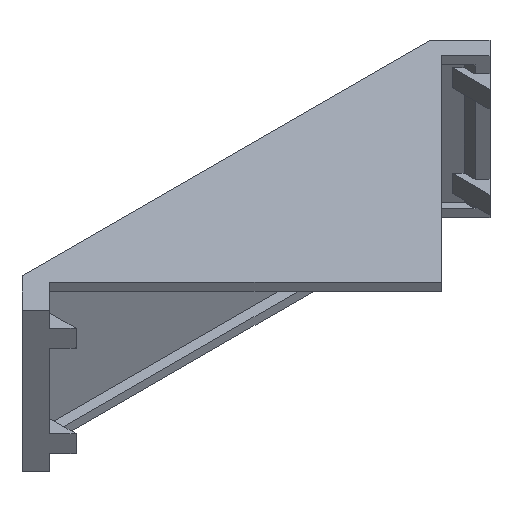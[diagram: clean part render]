
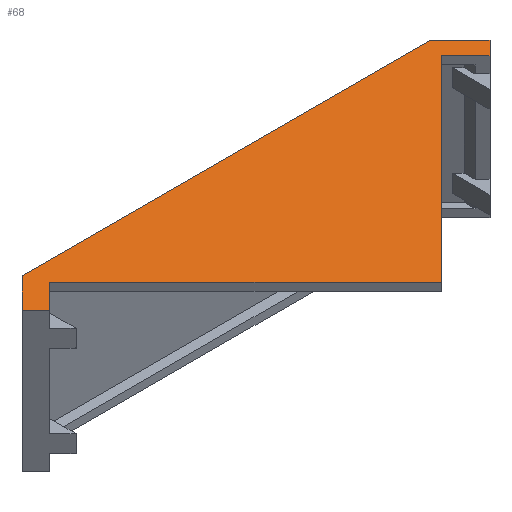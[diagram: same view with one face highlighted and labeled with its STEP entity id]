
A CAD part, isometric view. The second image highlights one B-rep face of the part: STEP entity #68.
In plain terms, the highlighted planar face has unit normal (0, 0, 1).
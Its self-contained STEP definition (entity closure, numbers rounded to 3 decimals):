
#4 = CARTESIAN_POINT ( 'NONE',  ( 50.274, 0.416, 36. ) ) ;
#7 = LINE ( 'NONE', #508, #92 ) ;
#34 = LINE ( 'NONE', #884, #46 ) ;
#42 = EDGE_CURVE ( 'NONE', #105, #1313, #942, .T. ) ;
#46 = VECTOR ( 'NONE', #991, 1000. ) ;
#60 = VECTOR ( 'NONE', #193, 1000. ) ;
#62 = LINE ( 'NONE', #889, #60 ) ;
#68 = ADVANCED_FACE ( 'NONE', ( #964 ), #362, .T. ) ;
#69 = DIRECTION ( 'NONE',  ( 0.707, 0.707, 0. ) ) ;
#70 = CARTESIAN_POINT ( 'NONE',  ( -66.605, -3.119, 36. ) ) ;
#92 = VECTOR ( 'NONE', #777, 1000. ) ;
#101 = CARTESIAN_POINT ( 'NONE',  ( -62.433, 8.124, 36. ) ) ;
#105 = VERTEX_POINT ( 'NONE', #4 ) ;
#109 = VECTOR ( 'NONE', #1060, 1000. ) ;
#120 = ORIENTED_EDGE ( 'NONE', *, *, #1133, .T. ) ;
#122 = EDGE_CURVE ( 'NONE', #411, #213, #1220, .T. ) ;
#130 = CARTESIAN_POINT ( 'NONE',  ( -60.362, 3.124, 36. ) ) ;
#146 = LINE ( 'NONE', #1275, #109 ) ;
#155 = VERTEX_POINT ( 'NONE', #101 ) ;
#167 = DIRECTION ( 'NONE',  ( 1., 0., 0. ) ) ;
#193 = DIRECTION ( 'NONE',  ( 0.707, 0.707, 0. ) ) ;
#197 = VERTEX_POINT ( 'NONE', #1085 ) ;
#213 = VERTEX_POINT ( 'NONE', #1102 ) ;
#219 = CARTESIAN_POINT ( 'NONE',  ( -62.433, 8.124, 36. ) ) ;
#295 = DIRECTION ( 'NONE',  ( 0.707, -0.707, 0. ) ) ;
#306 = EDGE_CURVE ( 'NONE', #450, #411, #979, .T. ) ;
#309 = EDGE_CURVE ( 'NONE', #105, #789, #983, .T. ) ;
#350 = CARTESIAN_POINT ( 'NONE',  ( 46.739, -3.119, 36. ) ) ;
#358 = CARTESIAN_POINT ( 'NONE',  ( 0., 0., 36. ) ) ;
#362 = PLANE ( 'NONE',  #785 ) ;
#365 = DIRECTION ( 'NONE',  ( -0.707, 0.707, 0. ) ) ;
#411 = VERTEX_POINT ( 'NONE', #1044 ) ;
#413 = ORIENTED_EDGE ( 'NONE', *, *, #122, .T. ) ;
#450 = VERTEX_POINT ( 'NONE', #130 ) ;
#463 = EDGE_LOOP ( 'NONE', ( #1179, #519, #120, #1279, #551, #464, #1129, #413, #1043 ) ) ;
#464 = ORIENTED_EDGE ( 'NONE', *, *, #676, .T. ) ;
#476 = CARTESIAN_POINT ( 'NONE',  ( 42.567, 8.124, 36. ) ) ;
#508 = CARTESIAN_POINT ( 'NONE',  ( -62.433, 8.124, 36. ) ) ;
#517 = CARTESIAN_POINT ( 'NONE',  ( -9.933, -47.305, 36. ) ) ;
#519 = ORIENTED_EDGE ( 'NONE', *, *, #42, .T. ) ;
#551 = ORIENTED_EDGE ( 'NONE', *, *, #648, .T. ) ;
#555 = VECTOR ( 'NONE', #636, 1000. ) ;
#568 = LINE ( 'NONE', #219, #555 ) ;
#622 = CARTESIAN_POINT ( 'NONE',  ( 24.929, -24.929, 36. ) ) ;
#636 = DIRECTION ( 'NONE',  ( -1., 0., 0. ) ) ;
#648 = EDGE_CURVE ( 'NONE', #197, #757, #34, .T. ) ;
#676 = EDGE_CURVE ( 'NONE', #757, #450, #62, .T. ) ;
#677 = EDGE_CURVE ( 'NONE', #155, #197, #7, .T. ) ;
#697 = EDGE_CURVE ( 'NONE', #213, #789, #146, .T. ) ;
#757 = VERTEX_POINT ( 'NONE', #70 ) ;
#777 = DIRECTION ( 'NONE',  ( -0.707, -0.707, 0. ) ) ;
#785 = AXIS2_PLACEMENT_3D ( 'NONE', #358, #1068, #167 ) ;
#789 = VERTEX_POINT ( 'NONE', #350 ) ;
#884 = CARTESIAN_POINT ( 'NONE',  ( -34.862, -34.862, 36. ) ) ;
#886 = CARTESIAN_POINT ( 'NONE',  ( 42.567, 8.124, 36. ) ) ;
#889 = CARTESIAN_POINT ( 'NONE',  ( -66.676, -3.19, 36. ) ) ;
#942 = LINE ( 'NONE', #476, #978 ) ;
#964 = FACE_OUTER_BOUND ( 'NONE', #463, .T. ) ;
#978 = VECTOR ( 'NONE', #365, 1000. ) ;
#979 = LINE ( 'NONE', #517, #997 ) ;
#983 = LINE ( 'NONE', #622, #1011 ) ;
#991 = DIRECTION ( 'NONE',  ( 0.707, -0.707, 0. ) ) ;
#997 = VECTOR ( 'NONE', #295, 1000. ) ;
#1009 = CARTESIAN_POINT ( 'NONE',  ( 40.496, 3.124, 36. ) ) ;
#1011 = VECTOR ( 'NONE', #1203, 1000. ) ;
#1043 = ORIENTED_EDGE ( 'NONE', *, *, #697, .T. ) ;
#1044 = CARTESIAN_POINT ( 'NONE',  ( -9.933, -47.305, 36. ) ) ;
#1060 = DIRECTION ( 'NONE',  ( 0.707, -0.707, 0. ) ) ;
#1068 = DIRECTION ( 'NONE',  ( 0., 0., 1. ) ) ;
#1085 = CARTESIAN_POINT ( 'NONE',  ( -70.14, 0.416, 36. ) ) ;
#1102 = CARTESIAN_POINT ( 'NONE',  ( 40.496, 3.124, 36. ) ) ;
#1129 = ORIENTED_EDGE ( 'NONE', *, *, #306, .T. ) ;
#1133 = EDGE_CURVE ( 'NONE', #1313, #155, #568, .T. ) ;
#1179 = ORIENTED_EDGE ( 'NONE', *, *, #309, .F. ) ;
#1203 = DIRECTION ( 'NONE',  ( -0.707, -0.707, 0. ) ) ;
#1220 = LINE ( 'NONE', #1009, #1268 ) ;
#1268 = VECTOR ( 'NONE', #69, 1000. ) ;
#1275 = CARTESIAN_POINT ( 'NONE',  ( 46.81, -3.19, 36. ) ) ;
#1279 = ORIENTED_EDGE ( 'NONE', *, *, #677, .T. ) ;
#1313 = VERTEX_POINT ( 'NONE', #886 ) ;
